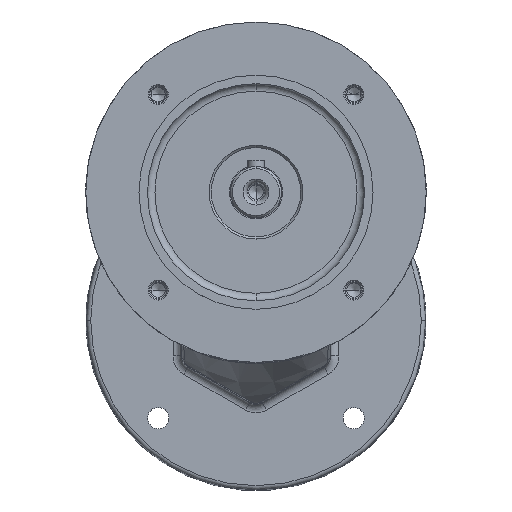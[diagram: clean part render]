
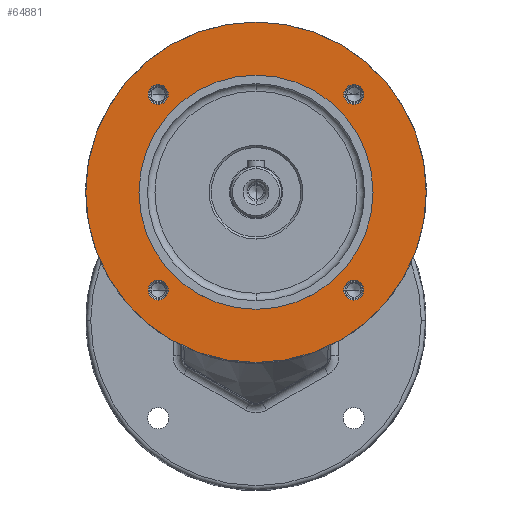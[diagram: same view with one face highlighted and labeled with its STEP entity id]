
A CAD part, top view. The second image highlights one B-rep face of the part: STEP entity #64881.
In plain terms, the highlighted planar face has unit normal (0, 0, 1).
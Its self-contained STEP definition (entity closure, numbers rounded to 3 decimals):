
#61130 = EDGE_CURVE ( 'NONE', #63280, #63278, #82911, .T. ) ;
#61310 = VERTEX_POINT ( 'NONE', #83093 ) ;
#61654 = VERTEX_POINT ( 'NONE', #83090 ) ;
#62033 = EDGE_CURVE ( 'NONE', #61310, #61654, #83078, .T. ) ;
#62318 = VERTEX_POINT ( 'NONE', #83268 ) ;
#62322 = EDGE_CURVE ( 'NONE', #62324, #62318, #83255, .T. ) ;
#62324 = VERTEX_POINT ( 'NONE', #83242 ) ;
#63242 = VERTEX_POINT ( 'NONE', #86631 ) ;
#63246 = EDGE_CURVE ( 'NONE', #63248, #63242, #86621, .T. ) ;
#63248 = VERTEX_POINT ( 'NONE', #86608 ) ;
#63278 = VERTEX_POINT ( 'NONE', #86740 ) ;
#63280 = VERTEX_POINT ( 'NONE', #86739 ) ;
#64843 = ORIENTED_EDGE ( 'NONE', *, *, #64845, .T. ) ;
#64845 = EDGE_CURVE ( 'NONE', #61654, #61310, #93557, .T. ) ;
#64848 = EDGE_LOOP ( 'NONE', ( #64850, #64852 ) ) ;
#64850 = ORIENTED_EDGE ( 'NONE', *, *, #63246, .T. ) ;
#64852 = ORIENTED_EDGE ( 'NONE', *, *, #64854, .T. ) ;
#64854 = EDGE_CURVE ( 'NONE', #63242, #63248, #93535, .T. ) ;
#64856 = EDGE_LOOP ( 'NONE', ( #64858, #64860 ) ) ;
#64858 = ORIENTED_EDGE ( 'NONE', *, *, #61130, .T. ) ;
#64860 = ORIENTED_EDGE ( 'NONE', *, *, #64862, .T. ) ;
#64862 = EDGE_CURVE ( 'NONE', #63278, #63280, #93517, .T. ) ;
#64865 = EDGE_LOOP ( 'NONE', ( #64867, #64983 ) ) ;
#64867 = ORIENTED_EDGE ( 'NONE', *, *, #113483, .T. ) ;
#64871 = EDGE_CURVE ( 'NONE', #113648, #113640, #93497, .T. ) ;
#64881 = ADVANCED_FACE ( 'NONE', ( #93463, #93461, #93458, #93455, #93453, #93452 ), #93442, .T. ) ;
#64885 = EDGE_LOOP ( 'NONE', ( #64887, #64889 ) ) ;
#64887 = ORIENTED_EDGE ( 'NONE', *, *, #62322, .T. ) ;
#64889 = ORIENTED_EDGE ( 'NONE', *, *, #64891, .T. ) ;
#64891 = EDGE_CURVE ( 'NONE', #62318, #62324, #93678, .T. ) ;
#64894 = EDGE_LOOP ( 'NONE', ( #64896, #64843 ) ) ;
#64896 = ORIENTED_EDGE ( 'NONE', *, *, #62033, .T. ) ;
#64983 = ORIENTED_EDGE ( 'NONE', *, *, #64985, .T. ) ;
#64985 = EDGE_CURVE ( 'NONE', #113482, #113485, #93879, .T. ) ;
#64988 = EDGE_LOOP ( 'NONE', ( #64990, #64992 ) ) ;
#64990 = ORIENTED_EDGE ( 'NONE', *, *, #113646, .F. ) ;
#64992 = ORIENTED_EDGE ( 'NONE', *, *, #64871, .F. ) ;
#82911 = CIRCLE ( 'NONE', #83102, 4.7 ) ;
#83071 = DIRECTION ( 'NONE',  ( 0., -1., 0. ) ) ;
#83073 = DIRECTION ( 'NONE',  ( 0., 0., -1. ) ) ;
#83075 = CARTESIAN_POINT ( 'NONE',  ( -45.962, -45.962, 0. ) ) ;
#83076 = AXIS2_PLACEMENT_3D ( 'NONE', #83075, #83073, #83071 ) ;
#83078 = CIRCLE ( 'NONE', #83076, 4.7 ) ;
#83090 = CARTESIAN_POINT ( 'NONE',  ( -50.662, -45.962, 0. ) ) ;
#83093 = CARTESIAN_POINT ( 'NONE',  ( -41.262, -45.962, 0. ) ) ;
#83095 = DIRECTION ( 'NONE',  ( 0., -1., 0. ) ) ;
#83097 = DIRECTION ( 'NONE',  ( 0., 0., -1. ) ) ;
#83099 = CARTESIAN_POINT ( 'NONE',  ( -45.962, 45.962, 0. ) ) ;
#83102 = AXIS2_PLACEMENT_3D ( 'NONE', #83099, #83097, #83095 ) ;
#83242 = CARTESIAN_POINT ( 'NONE',  ( 50.662, -45.962, 0. ) ) ;
#83245 = DIRECTION ( 'NONE',  ( 0., -1., 0. ) ) ;
#83248 = DIRECTION ( 'NONE',  ( 0., 0., -1. ) ) ;
#83250 = CARTESIAN_POINT ( 'NONE',  ( 45.962, -45.962, 0. ) ) ;
#83252 = AXIS2_PLACEMENT_3D ( 'NONE', #83250, #83248, #83245 ) ;
#83255 = CIRCLE ( 'NONE', #83252, 4.7 ) ;
#83268 = CARTESIAN_POINT ( 'NONE',  ( 41.262, -45.962, 0. ) ) ;
#86608 = CARTESIAN_POINT ( 'NONE',  ( 50.662, 45.962, 0. ) ) ;
#86611 = DIRECTION ( 'NONE',  ( 0., -1., 0. ) ) ;
#86614 = DIRECTION ( 'NONE',  ( 0., 0., -1. ) ) ;
#86615 = CARTESIAN_POINT ( 'NONE',  ( 45.962, 45.962, 0. ) ) ;
#86618 = AXIS2_PLACEMENT_3D ( 'NONE', #86615, #86614, #86611 ) ;
#86621 = CIRCLE ( 'NONE', #86618, 4.7 ) ;
#86631 = CARTESIAN_POINT ( 'NONE',  ( 41.262, 45.962, 0. ) ) ;
#86739 = CARTESIAN_POINT ( 'NONE',  ( -41.262, 45.962, 0. ) ) ;
#86740 = CARTESIAN_POINT ( 'NONE',  ( -50.662, 45.962, 0. ) ) ;
#93440 = AXIS2_PLACEMENT_3D ( 'NONE', #93692, #93690, #93689 ) ;
#93442 = PLANE ( 'NONE',  #93440 ) ;
#93452 = FACE_OUTER_BOUND ( 'NONE', #64988, .T. ) ;
#93453 = FACE_BOUND ( 'NONE', #64865, .T. ) ;
#93455 = FACE_BOUND ( 'NONE', #64856, .T. ) ;
#93458 = FACE_BOUND ( 'NONE', #64848, .T. ) ;
#93461 = FACE_BOUND ( 'NONE', #64894, .T. ) ;
#93463 = FACE_BOUND ( 'NONE', #64885, .T. ) ;
#93487 = DIRECTION ( 'NONE',  ( 0., 1., 0. ) ) ;
#93490 = DIRECTION ( 'NONE',  ( 0., 0., -1. ) ) ;
#93493 = CARTESIAN_POINT ( 'NONE',  ( 0., 0., 0. ) ) ;
#93494 = AXIS2_PLACEMENT_3D ( 'NONE', #93493, #93490, #93487 ) ;
#93497 = CIRCLE ( 'NONE', #93494, 80. ) ;
#93507 = DIRECTION ( 'NONE',  ( 0., -1., 0. ) ) ;
#93510 = DIRECTION ( 'NONE',  ( 0., 0., -1. ) ) ;
#93513 = CARTESIAN_POINT ( 'NONE',  ( -45.962, 45.962, 0. ) ) ;
#93515 = AXIS2_PLACEMENT_3D ( 'NONE', #93513, #93510, #93507 ) ;
#93517 = CIRCLE ( 'NONE', #93515, 4.7 ) ;
#93526 = DIRECTION ( 'NONE',  ( 0., -1., 0. ) ) ;
#93529 = DIRECTION ( 'NONE',  ( 0., 0., -1. ) ) ;
#93532 = CARTESIAN_POINT ( 'NONE',  ( 45.962, 45.962, 0. ) ) ;
#93534 = AXIS2_PLACEMENT_3D ( 'NONE', #93532, #93529, #93526 ) ;
#93535 = CIRCLE ( 'NONE', #93534, 4.7 ) ;
#93546 = DIRECTION ( 'NONE',  ( 0., -1., 0. ) ) ;
#93549 = DIRECTION ( 'NONE',  ( 0., 0., -1. ) ) ;
#93552 = CARTESIAN_POINT ( 'NONE',  ( -45.962, -45.962, 0. ) ) ;
#93554 = AXIS2_PLACEMENT_3D ( 'NONE', #93552, #93549, #93546 ) ;
#93557 = CIRCLE ( 'NONE', #93554, 4.7 ) ;
#93667 = DIRECTION ( 'NONE',  ( 0., -1., 0. ) ) ;
#93670 = DIRECTION ( 'NONE',  ( 0., 0., -1. ) ) ;
#93673 = CARTESIAN_POINT ( 'NONE',  ( 45.962, -45.962, 0. ) ) ;
#93676 = AXIS2_PLACEMENT_3D ( 'NONE', #93673, #93670, #93667 ) ;
#93678 = CIRCLE ( 'NONE', #93676, 4.7 ) ;
#93689 = DIRECTION ( 'NONE',  ( 0., -1., 0. ) ) ;
#93690 = DIRECTION ( 'NONE',  ( 0., 0., 1. ) ) ;
#93692 = CARTESIAN_POINT ( 'NONE',  ( 0., 55., 0. ) ) ;
#93870 = DIRECTION ( 'NONE',  ( 0., 1., 0. ) ) ;
#93873 = DIRECTION ( 'NONE',  ( 0., 0., -1. ) ) ;
#93876 = AXIS2_PLACEMENT_3D ( 'NONE', #93897, #93873, #93870 ) ;
#93879 = CIRCLE ( 'NONE', #93876, 55. ) ;
#93897 = CARTESIAN_POINT ( 'NONE',  ( 0., 0., 0. ) ) ;
#109034 = CARTESIAN_POINT ( 'NONE',  ( 0., 55., 0. ) ) ;
#109036 = DIRECTION ( 'NONE',  ( 0., 1., 0. ) ) ;
#109038 = DIRECTION ( 'NONE',  ( 0., 0., -1. ) ) ;
#109039 = CARTESIAN_POINT ( 'NONE',  ( 0., 0., 0. ) ) ;
#109041 = AXIS2_PLACEMENT_3D ( 'NONE', #109039, #109038, #109036 ) ;
#109043 = CIRCLE ( 'NONE', #109041, 55. ) ;
#109049 = CARTESIAN_POINT ( 'NONE',  ( 0., -55., 0. ) ) ;
#109821 = CARTESIAN_POINT ( 'NONE',  ( 0., 0., 0. ) ) ;
#109822 = CIRCLE ( 'NONE', #109980, 80. ) ;
#109833 = CARTESIAN_POINT ( 'NONE',  ( 0., 80., 0. ) ) ;
#109974 = CARTESIAN_POINT ( 'NONE',  ( 0., -80., 0. ) ) ;
#109976 = DIRECTION ( 'NONE',  ( 0., 1., 0. ) ) ;
#109978 = DIRECTION ( 'NONE',  ( 0., 0., -1. ) ) ;
#109980 = AXIS2_PLACEMENT_3D ( 'NONE', #109821, #109978, #109976 ) ;
#113482 = VERTEX_POINT ( 'NONE', #109049 ) ;
#113483 = EDGE_CURVE ( 'NONE', #113485, #113482, #109043, .T. ) ;
#113485 = VERTEX_POINT ( 'NONE', #109034 ) ;
#113640 = VERTEX_POINT ( 'NONE', #109833 ) ;
#113646 = EDGE_CURVE ( 'NONE', #113640, #113648, #109822, .T. ) ;
#113648 = VERTEX_POINT ( 'NONE', #109974 ) ;
